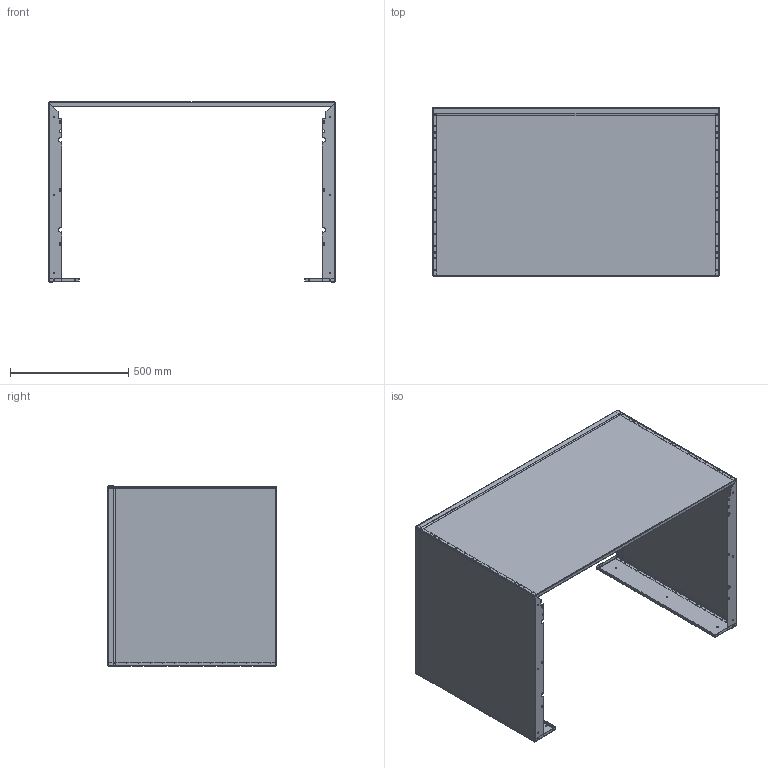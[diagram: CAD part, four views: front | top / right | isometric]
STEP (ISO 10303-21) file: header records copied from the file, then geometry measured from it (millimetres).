
FILE_DESCRIPTION (( 'STEP AP214' ), '1' );
FILE_NAME ('ICX28 CABINET EXTENSION.STEP', '2016-07-14T15:10:22', ( 'BMC' ), ( 'Bard Manufacturing Co., Inc.' ), 'SwSTEP 2.0', 'SolidWorks 2016', '' );
FILE_SCHEMA (( 'AUTOMOTIVE_DESIGN' ));
Length unit declared in the file: inch
Products named in the file (7): ICX28 CABINET EXTENSION; 100-650; 114-214; 104-1270; 104-1269; 112-455; Mirror100-650
Assembly tree (8 placements, depth 2):
  ICX28 CABINET EXTENSION
    100-650
    114-214
    104-1270
    104-1269  x2
    112-455  x2
    Mirror100-650
Bounding box: 1214.94 x 713.47 x 763.15 mm (x, y, z)
Surface area: 4941553.5 mm2 (no closed solid volume)
Topology: 0 solids, 8 shells, 1078 faces, 2846 edges, 1784 vertices
Faces by surface type: plane 838, cylinder 226, bspline 14
Entity records: 26524 total; most frequent: CARTESIAN_POINT 5705, ORIENTED_EDGE 4284, DIRECTION 4224, EDGE_CURVE 2142, VECTOR 1642, LINE 1642, VERTEX_POINT 1320, AXIS2_PLACEMENT_3D 1291
